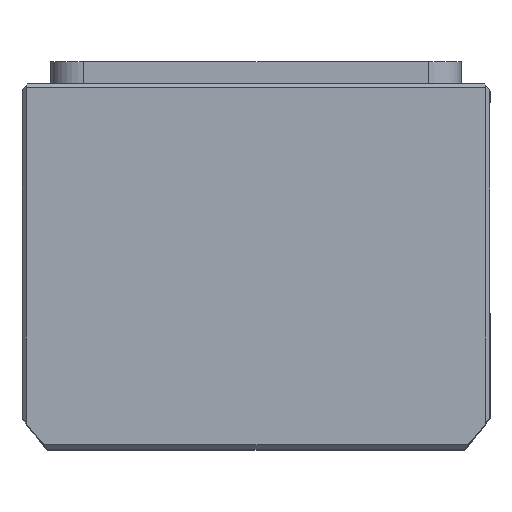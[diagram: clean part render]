
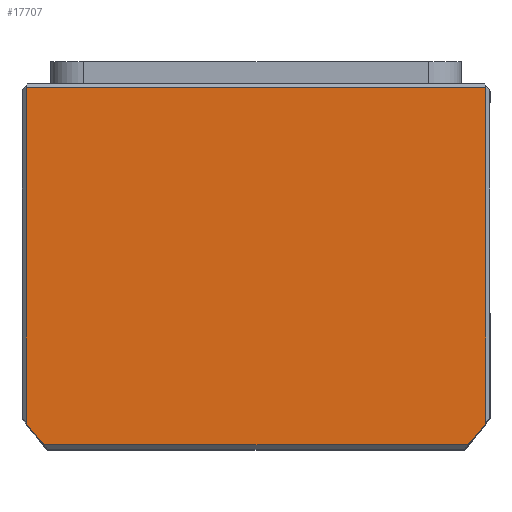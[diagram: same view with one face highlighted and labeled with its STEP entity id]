
A CAD part, top view. The second image highlights one B-rep face of the part: STEP entity #17707.
In plain terms, the highlighted planar face has unit normal (0, 0, 1) as drawn and (0, 0, -1) by its records, which use the part's own axes.
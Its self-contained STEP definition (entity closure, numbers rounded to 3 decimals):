
#371 = CARTESIAN_POINT ( 'NONE',  ( 56., 38.169, 0. ) ) ;
#475 = DIRECTION ( 'NONE',  ( 1., 0., 0. ) ) ;
#970 = VERTEX_POINT ( 'NONE', #371 ) ;
#1091 = CIRCLE ( 'NONE', #17683, 69.5 ) ;
#2050 = ORIENTED_EDGE ( 'NONE', *, *, #15965, .F. ) ;
#2819 = VECTOR ( 'NONE', #15910, 1000. ) ;
#2839 = CIRCLE ( 'NONE', #5749, 69.5 ) ;
#3294 = EDGE_CURVE ( 'NONE', #10755, #14561, #11269, .T. ) ;
#3401 = CARTESIAN_POINT ( 'NONE',  ( 0., -2.992, 0. ) ) ;
#3408 = EDGE_CURVE ( 'NONE', #970, #4971, #9881, .T. ) ;
#3412 = DIRECTION ( 'NONE',  ( 0., -1., 0. ) ) ;
#4156 = ORIENTED_EDGE ( 'NONE', *, *, #3408, .T. ) ;
#4600 = CARTESIAN_POINT ( 'NONE',  ( -56., 0., 0. ) ) ;
#4800 = CARTESIAN_POINT ( 'NONE',  ( 0., 0., 0. ) ) ;
#4875 = DIRECTION ( 'NONE',  ( 1., 0., 0. ) ) ;
#4971 = VERTEX_POINT ( 'NONE', #11758 ) ;
#5359 = EDGE_LOOP ( 'NONE', ( #2050, #4156, #11194, #6515, #7463, #16162 ) ) ;
#5586 = CARTESIAN_POINT ( 'NONE',  ( 0., -43.5, 0. ) ) ;
#5749 = AXIS2_PLACEMENT_3D ( 'NONE', #7028, #17356, #8523 ) ;
#6437 = VECTOR ( 'NONE', #10499, 1000. ) ;
#6515 = ORIENTED_EDGE ( 'NONE', *, *, #3294, .T. ) ;
#6723 = LINE ( 'NONE', #5586, #2819 ) ;
#7013 = DIRECTION ( 'NONE',  ( 1., 0., 0. ) ) ;
#7028 = CARTESIAN_POINT ( 'NONE',  ( 0., -2.992, 0. ) ) ;
#7386 = AXIS2_PLACEMENT_3D ( 'NONE', #4800, #9328, #475 ) ;
#7463 = ORIENTED_EDGE ( 'NONE', *, *, #9824, .F. ) ;
#7836 = PLANE ( 'NONE',  #7386 ) ;
#8523 = DIRECTION ( 'NONE',  ( 1., 0., 0. ) ) ;
#9328 = DIRECTION ( 'NONE',  ( 0., 0., 1. ) ) ;
#9824 = EDGE_CURVE ( 'NONE', #9933, #14561, #2839, .T. ) ;
#9881 = LINE ( 'NONE', #12267, #10392 ) ;
#9933 = VERTEX_POINT ( 'NONE', #18850 ) ;
#10392 = VECTOR ( 'NONE', #3412, 1000. ) ;
#10499 = DIRECTION ( 'NONE',  ( 0., 1., 0. ) ) ;
#10755 = VERTEX_POINT ( 'NONE', #16841 ) ;
#10971 = EDGE_CURVE ( 'NONE', #4971, #10755, #6723, .T. ) ;
#11194 = ORIENTED_EDGE ( 'NONE', *, *, #10971, .T. ) ;
#11269 = LINE ( 'NONE', #4600, #6437 ) ;
#11758 = CARTESIAN_POINT ( 'NONE',  ( 56., -43.5, 0. ) ) ;
#12267 = CARTESIAN_POINT ( 'NONE',  ( 56., 0., 0. ) ) ;
#13745 = DIRECTION ( 'NONE',  ( 0., 0., 1. ) ) ;
#14038 = LINE ( 'NONE', #15852, #17482 ) ;
#14561 = VERTEX_POINT ( 'NONE', #17947 ) ;
#15280 = VERTEX_POINT ( 'NONE', #17513 ) ;
#15577 = FACE_OUTER_BOUND ( 'NONE', #5359, .T. ) ;
#15852 = CARTESIAN_POINT ( 'NONE',  ( 0., 43.5, 0. ) ) ;
#15910 = DIRECTION ( 'NONE',  ( -1., 0., 0. ) ) ;
#15965 = EDGE_CURVE ( 'NONE', #970, #15280, #1091, .T. ) ;
#16162 = ORIENTED_EDGE ( 'NONE', *, *, #16531, .T. ) ;
#16531 = EDGE_CURVE ( 'NONE', #9933, #15280, #14038, .T. ) ;
#16841 = CARTESIAN_POINT ( 'NONE',  ( -56., -43.5, 0. ) ) ;
#17356 = DIRECTION ( 'NONE',  ( 0., 0., 1. ) ) ;
#17482 = VECTOR ( 'NONE', #7013, 1000. ) ;
#17513 = CARTESIAN_POINT ( 'NONE',  ( 51.66, 43.5, 0. ) ) ;
#17683 = AXIS2_PLACEMENT_3D ( 'NONE', #3401, #13745, #4875 ) ;
#17707 = ADVANCED_FACE ( 'NONE', ( #15577 ), #7836, .F. ) ;
#17947 = CARTESIAN_POINT ( 'NONE',  ( -56., 38.169, 0. ) ) ;
#18850 = CARTESIAN_POINT ( 'NONE',  ( -51.66, 43.5, 0. ) ) ;
